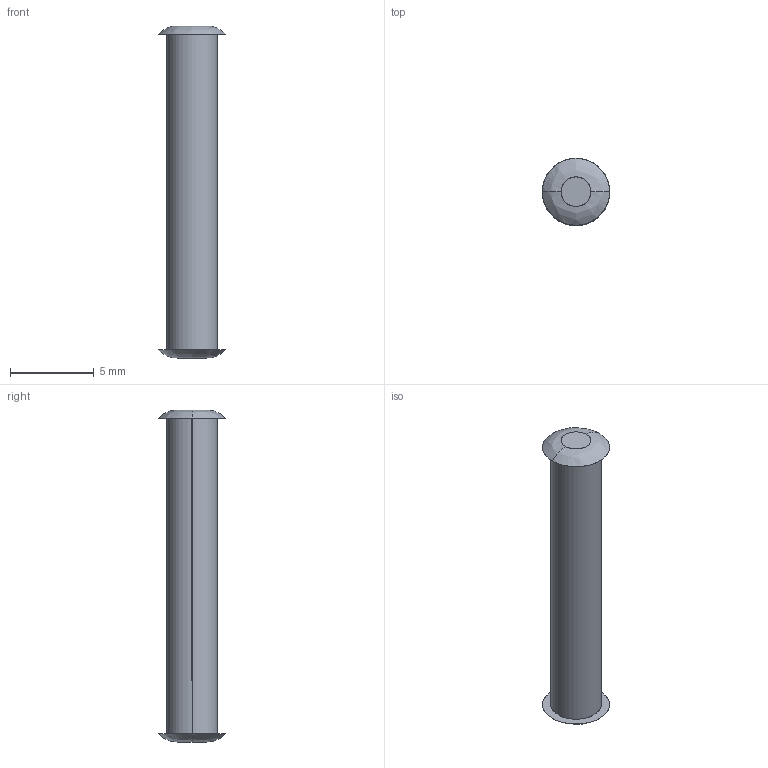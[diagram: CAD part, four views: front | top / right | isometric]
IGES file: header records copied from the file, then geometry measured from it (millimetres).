
Start section: SolidWorks IGES FILE using analytic representation for surfaces
Global section: file name: C:\Documents and Settings\lecoutey\Bureau\GR 78 E\52.040.10.IGS; native system: SolidWorks 2004 by SolidWorks Corporation; preprocessor: Version 5.3; author: lecoutey; date: 050404.175900; units: millimetre
Bounding box: 4 x 4 x 19.8 mm (x, y, z)
Surface area: 216.5 mm2 (no closed solid volume)
Topology: 0 solids, 0 shells, 10 faces, 216 edges, 216 vertices
Faces by surface type: bspline 8, revolution 2
